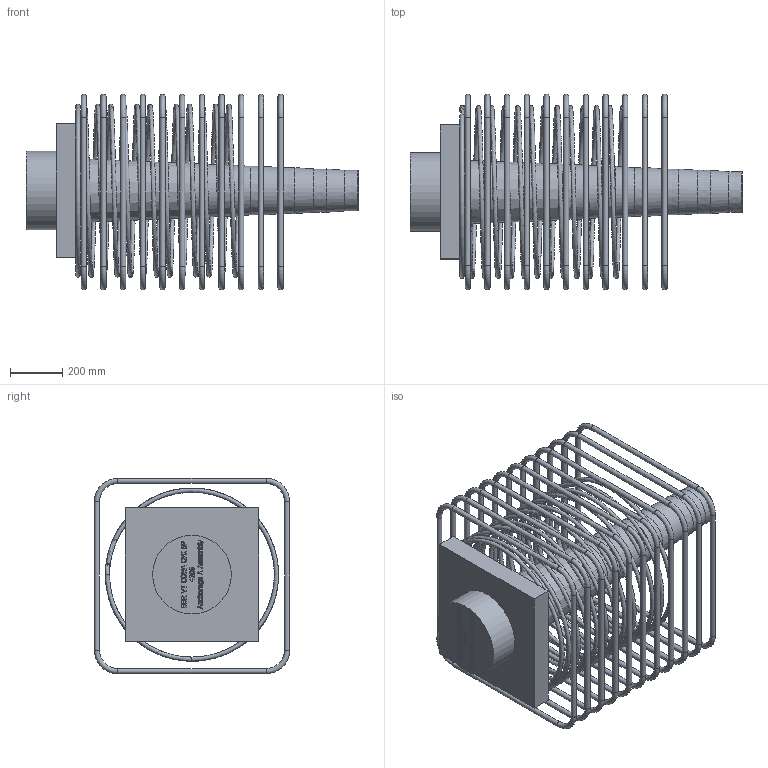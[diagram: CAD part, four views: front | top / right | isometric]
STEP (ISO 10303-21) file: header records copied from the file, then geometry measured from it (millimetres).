
FILE_DESCRIPTION(/* description */ (''),/* implementation_level */ '2;1');
FILE_NAME(/* name */ 'Z:\04 Publications\05 Give-out\BBR\6_3D_Models\BBR VT CONA CMI\BBR VT CONA CMI SP\04206\BBR VT CONA CMI SP 4206_Anchorage A Assembly_CS-34,28.stp',/* time_stamp */ '2017-05-09T10:24:57+02:00',/* author */ ('IP'),/* organization */ (''),/* preprocessor_version */ 'ST-DEVELOPER v16.1',/* originating_system */ 'Autodesk Inventor 2016',/* authorisation */ '');
FILE_SCHEMA (('AUTOMOTIVE_DESIGN { 1 0 10303 214 3 1 1 }'));
Length unit declared in the file: millimetre
Products named in the file (1): BBR VT CONA CMI SP 4206_Anchorage A Assembly_CS-34,28
Bounding box: 1265.1 x 745 x 745 mm (x, y, z)
Volume: 76310163.9 mm3; surface area: 4654384.8 mm2
Topology: 13 solids, 13 shells, 717 faces, 1873 edges, 1216 vertices
Faces by surface type: plane 322, bspline 293, torus 51, cylinder 45, cone 6
Full cylindrical faces by diameter (mm): 20 x44, 300 x1
Entity records: 29169 total; most frequent: CARTESIAN_POINT 13131, ORIENTED_EDGE 3544, DIRECTION 2142, EDGE_CURVE 1769, VERTEX_POINT 1214, LINE 1072, VECTOR 1072, EDGE_LOOP 880
